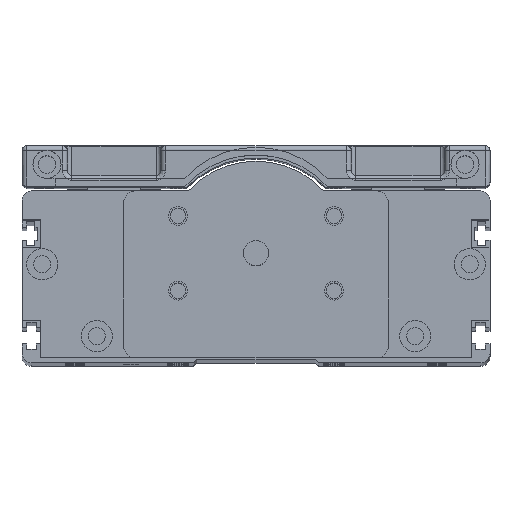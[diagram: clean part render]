
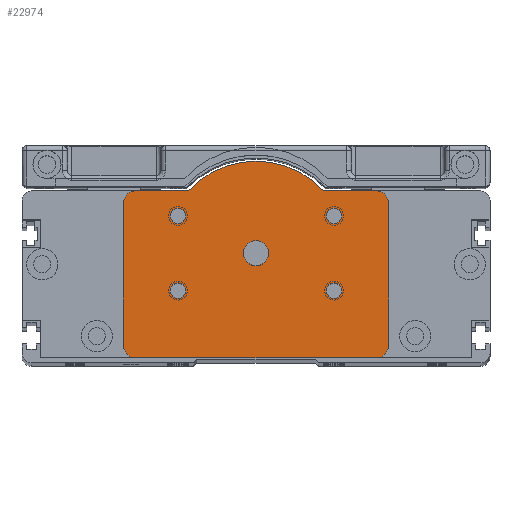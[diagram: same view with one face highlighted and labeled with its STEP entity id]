
A CAD part, top view. The second image highlights one B-rep face of the part: STEP entity #22974.
In plain terms, the highlighted planar face has unit normal (0, 0, 1).
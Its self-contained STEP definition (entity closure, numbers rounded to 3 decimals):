
#21616=CARTESIAN_POINT('',(38.5,49.5,29.));
#21617=DIRECTION('',(0.,0.,1.));
#21618=DIRECTION('',(1.,0.,0.));
#21619=AXIS2_PLACEMENT_3D('',#21616,#21617,#21618);
#21625=CARTESIAN_POINT('',(38.5,4.,29.));
#21626=DIRECTION('',(0.,0.,1.));
#21627=DIRECTION('',(0.,-1.,0.));
#21628=AXIS2_PLACEMENT_3D('',#21625,#21626,#21627);
#21777=CARTESIAN_POINT('',(-38.5,49.5,29.));
#21778=DIRECTION('',(0.,0.,1.));
#21779=DIRECTION('',(0.,1.,0.));
#21780=AXIS2_PLACEMENT_3D('',#21777,#21778,#21779);
#21791=DIRECTION('',(0.,1.,0.));
#21792=VECTOR('',#21791,45.5);
#21793=CARTESIAN_POINT('',(42.5,4.,29.));
#21794=LINE('',#21793,#21792);
#21795=DIRECTION('',(1.,0.,0.));
#21796=VECTOR('',#21795,77.);
#21797=CARTESIAN_POINT('',(-38.5,0.,29.));
#21798=LINE('',#21797,#21796);
#21799=DIRECTION('',(0.,1.,0.));
#21800=VECTOR('',#21799,45.5);
#21801=CARTESIAN_POINT('',(-42.5,4.,29.));
#21802=LINE('',#21801,#21800);
#21803=DIRECTION('',(-1.,0.,0.));
#21804=VECTOR('',#21803,16.815);
#21805=CARTESIAN_POINT('',(-21.685,53.5,29.));
#21806=LINE('',#21805,#21804);
#21807=CARTESIAN_POINT('',(0.,33.5,29.));
#21808=DIRECTION('',(0.,0.,1.));
#21809=DIRECTION('',(0.735,0.678,0.));
#21810=AXIS2_PLACEMENT_3D('',#21807,#21808,#21809);
#21812=DIRECTION('',(-1.,0.,0.));
#21813=VECTOR('',#21812,16.815);
#21814=CARTESIAN_POINT('',(38.5,53.5,29.));
#21815=LINE('',#21814,#21813);
#21816=CARTESIAN_POINT('',(0.,33.5,29.));
#21817=DIRECTION('',(0.,0.,1.));
#21818=DIRECTION('',(1.,0.,0.));
#21819=AXIS2_PLACEMENT_3D('',#21816,#21817,#21818);
#21821=CARTESIAN_POINT('',(0.,33.5,29.));
#21822=DIRECTION('',(0.,0.,1.));
#21823=DIRECTION('',(-1.,0.,0.));
#21824=AXIS2_PLACEMENT_3D('',#21821,#21822,#21823);
#21826=CARTESIAN_POINT('',(25.,45.5,29.));
#21827=DIRECTION('',(0.,0.,-1.));
#21828=DIRECTION('',(-1.,0.,0.));
#21829=AXIS2_PLACEMENT_3D('',#21826,#21827,#21828);
#21831=CARTESIAN_POINT('',(25.,45.5,29.));
#21832=DIRECTION('',(0.,0.,-1.));
#21833=DIRECTION('',(1.,0.,0.));
#21834=AXIS2_PLACEMENT_3D('',#21831,#21832,#21833);
#21836=CARTESIAN_POINT('',(25.,21.5,29.));
#21837=DIRECTION('',(0.,0.,1.));
#21838=DIRECTION('',(-1.,0.,0.));
#21839=AXIS2_PLACEMENT_3D('',#21836,#21837,#21838);
#21841=CARTESIAN_POINT('',(25.,21.5,29.));
#21842=DIRECTION('',(0.,0.,1.));
#21843=DIRECTION('',(1.,0.,0.));
#21844=AXIS2_PLACEMENT_3D('',#21841,#21842,#21843);
#21846=CARTESIAN_POINT('',(-25.,45.5,29.));
#21847=DIRECTION('',(0.,0.,1.));
#21848=DIRECTION('',(1.,0.,0.));
#21849=AXIS2_PLACEMENT_3D('',#21846,#21847,#21848);
#21851=CARTESIAN_POINT('',(-25.,45.5,29.));
#21852=DIRECTION('',(0.,0.,1.));
#21853=DIRECTION('',(-1.,0.,0.));
#21854=AXIS2_PLACEMENT_3D('',#21851,#21852,#21853);
#21856=CARTESIAN_POINT('',(-25.,21.5,29.));
#21857=DIRECTION('',(0.,0.,-1.));
#21858=DIRECTION('',(1.,0.,0.));
#21859=AXIS2_PLACEMENT_3D('',#21856,#21857,#21858);
#21861=CARTESIAN_POINT('',(-25.,21.5,29.));
#21862=DIRECTION('',(0.,0.,-1.));
#21863=DIRECTION('',(-1.,0.,0.));
#21864=AXIS2_PLACEMENT_3D('',#21861,#21862,#21863);
#21879=CARTESIAN_POINT('',(-38.5,4.,29.));
#21880=DIRECTION('',(0.,0.,1.));
#21881=DIRECTION('',(-1.,0.,0.));
#21882=AXIS2_PLACEMENT_3D('',#21879,#21880,#21881);
#22108=CARTESIAN_POINT('',(21.685,53.5,29.));
#22109=CARTESIAN_POINT('',(-21.685,53.5,29.));
#22110=VERTEX_POINT('',#22108);
#22111=VERTEX_POINT('',#22109);
#22156=CARTESIAN_POINT('',(38.5,53.5,29.));
#22158=VERTEX_POINT('',#22156);
#22160=CARTESIAN_POINT('',(42.5,49.5,29.));
#22162=VERTEX_POINT('',#22160);
#22165=CARTESIAN_POINT('',(38.5,0.,29.));
#22167=VERTEX_POINT('',#22165);
#22168=CARTESIAN_POINT('',(42.5,4.,29.));
#22169=VERTEX_POINT('',#22168);
#22173=CARTESIAN_POINT('',(-38.5,53.5,29.));
#22175=VERTEX_POINT('',#22173);
#22176=CARTESIAN_POINT('',(-42.5,49.5,29.));
#22177=VERTEX_POINT('',#22176);
#22180=CARTESIAN_POINT('',(-38.5,0.,29.));
#22182=VERTEX_POINT('',#22180);
#22184=CARTESIAN_POINT('',(-42.5,4.,29.));
#22186=VERTEX_POINT('',#22184);
#22196=CARTESIAN_POINT('',(22.5,45.5,29.));
#22197=CARTESIAN_POINT('',(27.5,45.5,29.));
#22198=VERTEX_POINT('',#22196);
#22199=VERTEX_POINT('',#22197);
#22204=CARTESIAN_POINT('',(22.5,21.5,29.));
#22205=CARTESIAN_POINT('',(27.5,21.5,29.));
#22206=VERTEX_POINT('',#22204);
#22207=VERTEX_POINT('',#22205);
#22212=CARTESIAN_POINT('',(-22.5,45.5,29.));
#22213=CARTESIAN_POINT('',(-27.5,45.5,29.));
#22214=VERTEX_POINT('',#22212);
#22215=VERTEX_POINT('',#22213);
#22220=CARTESIAN_POINT('',(-22.5,21.5,29.));
#22221=CARTESIAN_POINT('',(-27.5,21.5,29.));
#22222=VERTEX_POINT('',#22220);
#22223=VERTEX_POINT('',#22221);
#22344=CARTESIAN_POINT('',(4.,33.5,29.));
#22345=CARTESIAN_POINT('',(-4.,33.5,29.));
#22346=VERTEX_POINT('',#22344);
#22347=VERTEX_POINT('',#22345);
#22924=CARTESIAN_POINT('',(0.,0.,29.));
#22925=DIRECTION('',(0.,0.,1.));
#22926=DIRECTION('',(1.,0.,0.));
#22927=AXIS2_PLACEMENT_3D('',#22924,#22925,#22926);
#22928=PLANE('',#22927);
#22929=ORIENTED_EDGE('',*,*,#22664,.F.);
#22930=ORIENTED_EDGE('',*,*,#22678,.F.);
#22931=ORIENTED_EDGE('',*,*,#22690,.F.);
#22932=ORIENTED_EDGE('',*,*,#22708,.F.);
#22934=ORIENTED_EDGE('',*,*,#22933,.F.);
#22936=ORIENTED_EDGE('',*,*,#22935,.T.);
#22937=ORIENTED_EDGE('',*,*,#22916,.F.);
#22938=ORIENTED_EDGE('',*,*,#22650,.F.);
#22940=ORIENTED_EDGE('',*,*,#22939,.F.);
#22941=ORIENTED_EDGE('',*,*,#22618,.F.);
#22942=EDGE_LOOP('',(#22929,#22930,#22931,#22932,#22934,#22936,#22937,#22938,
#22940,#22941));
#22943=FACE_OUTER_BOUND('',#22942,.F.);
#22945=ORIENTED_EDGE('',*,*,#22944,.T.);
#22947=ORIENTED_EDGE('',*,*,#22946,.T.);
#22948=EDGE_LOOP('',(#22945,#22947));
#22949=FACE_BOUND('',#22948,.F.);
#22951=ORIENTED_EDGE('',*,*,#22950,.F.);
#22953=ORIENTED_EDGE('',*,*,#22952,.F.);
#22954=EDGE_LOOP('',(#22951,#22953));
#22955=FACE_BOUND('',#22954,.F.);
#22957=ORIENTED_EDGE('',*,*,#22956,.T.);
#22959=ORIENTED_EDGE('',*,*,#22958,.T.);
#22960=EDGE_LOOP('',(#22957,#22959));
#22961=FACE_BOUND('',#22960,.F.);
#22963=ORIENTED_EDGE('',*,*,#22962,.T.);
#22965=ORIENTED_EDGE('',*,*,#22964,.T.);
#22966=EDGE_LOOP('',(#22963,#22965));
#22967=FACE_BOUND('',#22966,.F.);
#22969=ORIENTED_EDGE('',*,*,#22968,.F.);
#22971=ORIENTED_EDGE('',*,*,#22970,.F.);
#22972=EDGE_LOOP('',(#22969,#22971));
#22973=FACE_BOUND('',#22972,.F.);
#22974=ADVANCED_FACE('',(#22943,#22949,#22955,#22961,#22967,#22973),#22928,.T.);
#21620=CIRCLE('',#21619,4.);
#21629=CIRCLE('',#21628,4.);
#21781=CIRCLE('',#21780,4.);
#21811=CIRCLE('',#21810,29.5);
#21820=CIRCLE('',#21819,4.);
#21825=CIRCLE('',#21824,4.);
#21830=CIRCLE('',#21829,2.5);
#21835=CIRCLE('',#21834,2.5);
#21840=CIRCLE('',#21839,2.5);
#21845=CIRCLE('',#21844,2.5);
#21850=CIRCLE('',#21849,2.5);
#21855=CIRCLE('',#21854,2.5);
#21860=CIRCLE('',#21859,2.5);
#21865=CIRCLE('',#21864,2.5);
#21883=CIRCLE('',#21882,4.);
#22618=EDGE_CURVE('',#22158,#22110,#21815,.T.);
#22650=EDGE_CURVE('',#22111,#22175,#21806,.T.);
#22664=EDGE_CURVE('',#22162,#22158,#21620,.T.);
#22678=EDGE_CURVE('',#22169,#22162,#21794,.T.);
#22690=EDGE_CURVE('',#22167,#22169,#21629,.T.);
#22708=EDGE_CURVE('',#22182,#22167,#21798,.T.);
#22916=EDGE_CURVE('',#22175,#22177,#21781,.T.);
#22933=EDGE_CURVE('',#22186,#22182,#21883,.T.);
#22935=EDGE_CURVE('',#22186,#22177,#21802,.T.);
#22939=EDGE_CURVE('',#22110,#22111,#21811,.T.);
#22944=EDGE_CURVE('',#22346,#22347,#21820,.T.);
#22946=EDGE_CURVE('',#22347,#22346,#21825,.T.);
#22950=EDGE_CURVE('',#22198,#22199,#21830,.T.);
#22952=EDGE_CURVE('',#22199,#22198,#21835,.T.);
#22956=EDGE_CURVE('',#22206,#22207,#21840,.T.);
#22958=EDGE_CURVE('',#22207,#22206,#21845,.T.);
#22962=EDGE_CURVE('',#22214,#22215,#21850,.T.);
#22964=EDGE_CURVE('',#22215,#22214,#21855,.T.);
#22968=EDGE_CURVE('',#22222,#22223,#21860,.T.);
#22970=EDGE_CURVE('',#22223,#22222,#21865,.T.);
